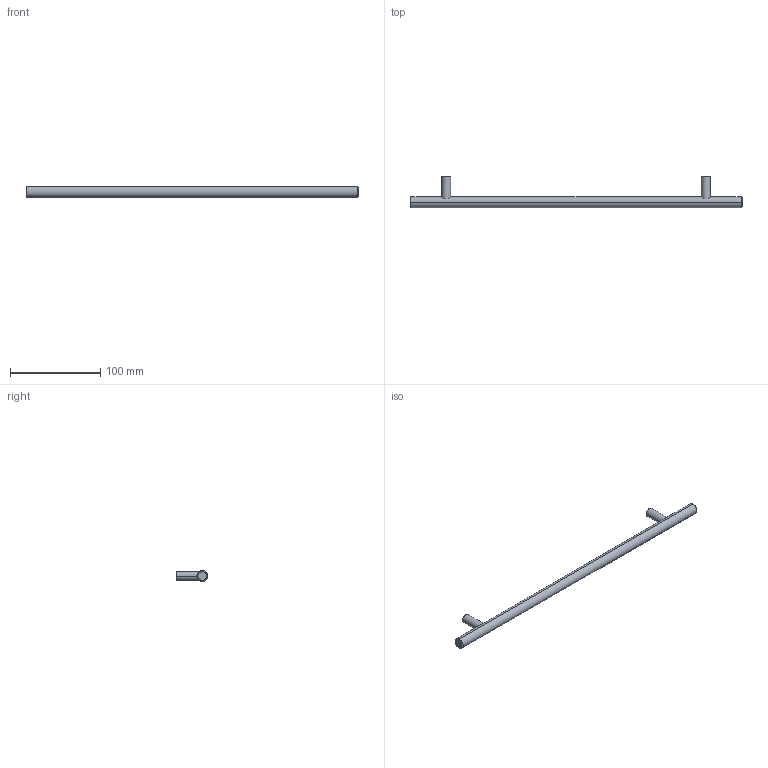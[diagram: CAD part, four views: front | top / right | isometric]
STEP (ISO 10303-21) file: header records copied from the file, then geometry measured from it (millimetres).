
FILE_DESCRIPTION( ( '' ), '1' );
FILE_NAME( 'C:/Documents and Settings/Sachin/Desktop/Sheet 10_1/stp/9070759.stp', '2013-10-22T12:34:28', ( '' ), ( '' ), ' ', ' ', ' ' );
FILE_SCHEMA( ( 'CONFIG_CONTROL_DESIGN' ) );
Length unit declared in the file: millimetre
Products named in the file (1): 1
Bounding box: 368 x 35 x 12 mm (x, y, z)
Volume: 45107.2 mm3; surface area: 15771.1 mm2
Topology: 1 solids, 1 shells, 20 faces, 44 edges, 30 vertices
Faces by surface type: cylinder 10, plane 6, torus 4
Entity records: 738 total; most frequent: CARTESIAN_POINT 229, DIRECTION 108, ORIENTED_EDGE 88, AXIS2_PLACEMENT_3D 49, EDGE_CURVE 44, VERTEX_POINT 30, CIRCLE 28, EDGE_LOOP 24
